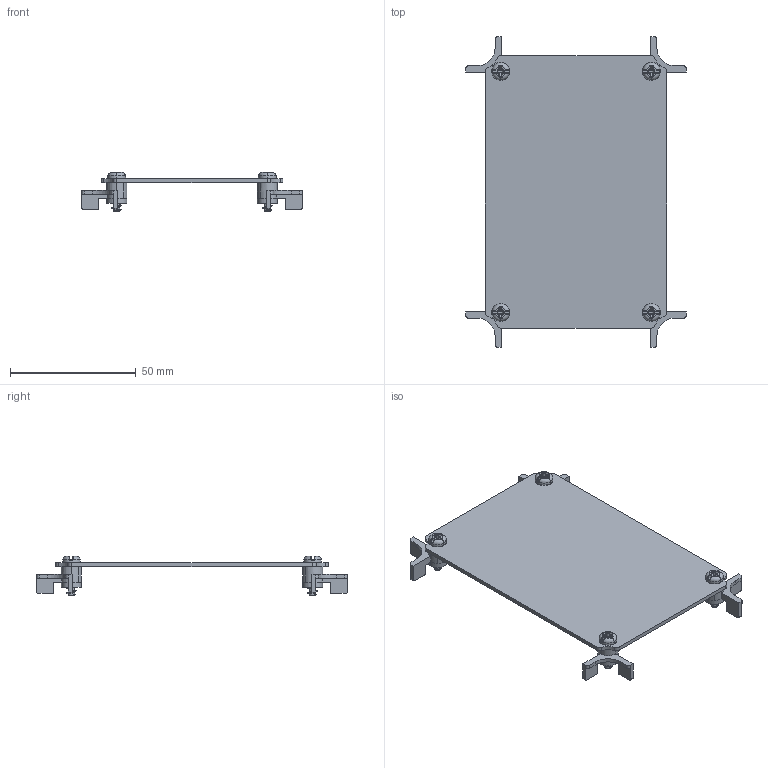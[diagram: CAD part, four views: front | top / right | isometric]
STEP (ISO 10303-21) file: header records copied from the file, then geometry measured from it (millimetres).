
FILE_DESCRIPTION (( 'STEP AP214' ), '1' );
FILE_NAME ('SK-15K.STEP', '2020-02-25T19:07:49', ( 'mdickason' ), ( 'Hewlett-Packard Company' ), 'SwSTEP 2.0', 'SolidWorks 2016', '' );
FILE_SCHEMA (( 'AUTOMOTIVE_DESIGN' ));
Length unit declared in the file: inch
Products named in the file (6): SK-97S-01^SK-97S; SK-15K; SK-97S-02^SK-97S; SK-15P; SK-97S_FOR ASSEMBLY; SCREWS-024_default
Assembly tree (14 placements, depth 3):
  SK-15K
    SK-15P
    SK-97S_FOR ASSEMBLY
      SK-97S-02^SK-97S  x4
      SK-97S-01^SK-97S  x4
    SCREWS-024_default  x4
Bounding box: 87.7 x 123.7 x 15.6 mm (x, y, z)
Volume: 14981.2 mm3; surface area: 21650.3 mm2
Topology: 9 solids, 13 shells, 754 faces, 1808 edges, 1068 vertices
Faces by surface type: cylinder 284, bspline 188, plane 170, torus 68, cone 28, sphere 16
Entity records: 11341 total; most frequent: CARTESIAN_POINT 6461, ORIENTED_EDGE 1004, DIRECTION 949, EDGE_CURVE 502, AXIS2_PLACEMENT_3D 388, VERTEX_POINT 303, EDGE_LOOP 225, ADVANCED_FACE 210
